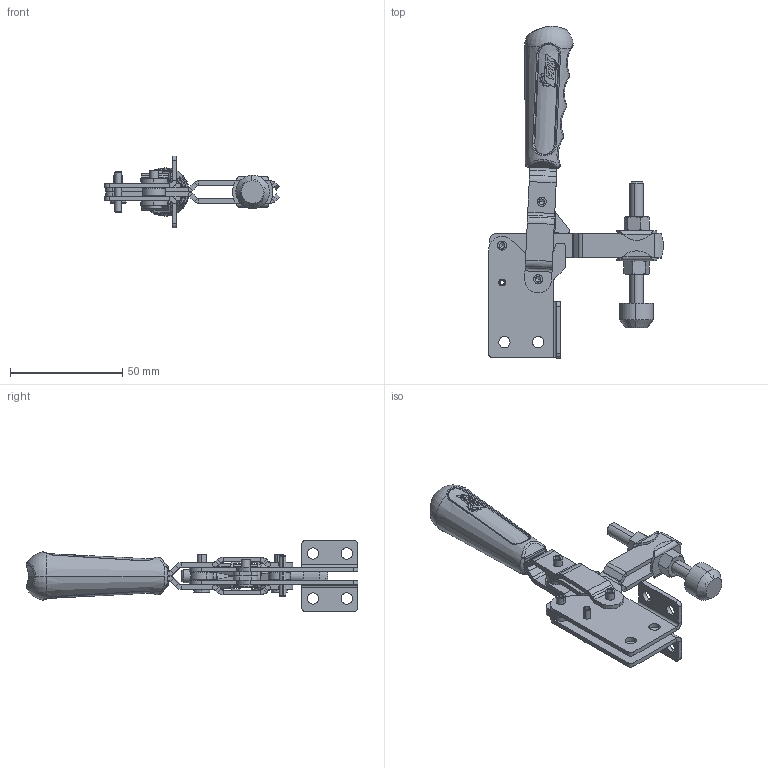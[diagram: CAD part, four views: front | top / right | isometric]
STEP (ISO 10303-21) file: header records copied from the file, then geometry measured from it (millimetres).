
FILE_DESCRIPTION (( 'STEP AP214' ), '1' );
FILE_NAME ('201_YU.STEP', '2024-09-09T16:27:04', ( '' ), ( '' ), 'SwSTEP 2.0', 'SolidWorks 2023', '' );
FILE_SCHEMA (( 'AUTOMOTIVE_DESIGN' ));
Length unit declared in the file: millimetre
Products named in the file (17): FZK_201_B_7_00; M6 PUL DIN125; hex nut gradec_din_Hexagon Nut ISO 4034 - M6 - N; FZK_201_BLU_01_00; FZK_201_B_02_00; FZK_201_B_05_00; FZK_201_B_8_00; FZK_201_B_02A_00; DALDIRMA SAP; 201_YU; hex bolt gradeb_din_ISO 4015 - M6 x 60 x 60-N; FZK_201_Y_01_00; spring pin slotted_hd_din_Spring Pin ISO 8752 - 3 x 18 - St; FZK_201_Y_02_00; FZK_201_B_04_00; M6 PABUÇ; FZK_201_B_06_00
Assembly tree (23 placements, depth 3):
  201_YU
    FZK_201_B_04_00
    FZK_201_Y_01_00
    FZK_201_Y_02_00
    M6 PABUÇ
    FZK_201_B_06_00  x2
    FZK_201_B_02_00
      FZK_201_B_02A_00  x2
    FZK_201_B_05_00
    FZK_201_BLU_01_00  x2
    FZK_201_B_7_00  x2
    hex nut gradec_din_Hexagon Nut ISO 4034 - M6 - N  x2
    hex bolt gradeb_din_ISO 4015 - M6 x 60 x 60-N
    DALDIRMA SAP
    FZK_201_B_8_00  x2
    spring pin slotted_hd_din_Spring Pin ISO 8752 - 3 x 18 - St
    M6 PUL DIN125  x2
Bounding box: 77.66 x 147.58 x 32 mm (x, y, z)
Volume: 35708.4 mm3; surface area: 32301.8 mm2
Topology: 22 solids, 22 shells, 829 faces, 1954 edges, 1175 vertices
Faces by surface type: cylinder 249, plane 248, bspline 221, cone 85, sphere 20, torus 6
Entity records: 32275 total; most frequent: CARTESIAN_POINT 18349, ORIENTED_EDGE 3092, DIRECTION 2246, EDGE_CURVE 1546, VERTEX_POINT 955, AXIS2_PLACEMENT_3D 902, EDGE_LOOP 711, ADVANCED_FACE 641
